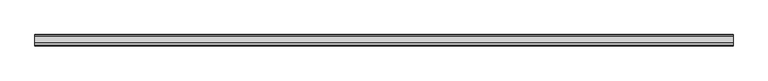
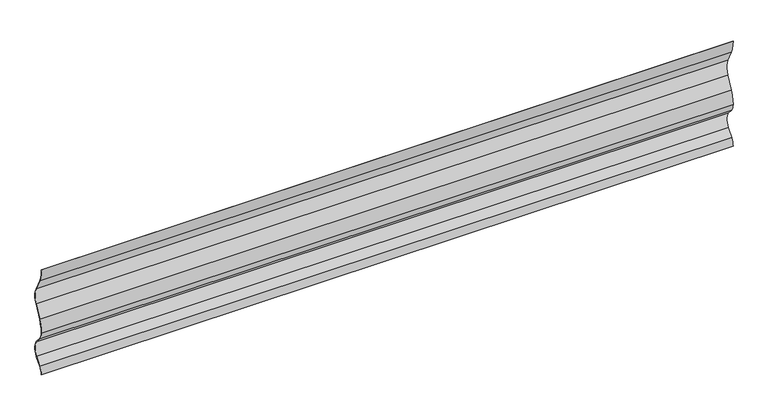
"""IFC4 building model written with IfcOpenShell, lengths in millimetres: plate geometry, Ritmica Horizontal 368 : Ritmica Horizontal 368."""

from ifc_helpers import new_model, si_unit, point, frame, frame_2d, origin, place, context, project, spatial, polyline, circle_curve, trimmed, segment, composite_curve, outline, extrude, source, transform, mapped, element, save


def plate_c734a921(model_context):
    return source(origin(), model_context, "Body", "SweptSolid", [
        extrude(outline(composite_curve([segment(polyline([(10.0476548, 324.2892209), (30.4443215, 283.7581494)]), True, "CONTINUOUS"), segment(trimmed(circle_curve(frame_2d((-23.1517705, 256.7867029)), 60.0), [point((30.4443215, 283.7581494))], [point((30.4639414, 229.8542794))], False, "CARTESIAN"), True, "CONTINUOUS"), segment(polyline([(30.4639414, 229.8542794), (10.0967851, 189.3083707)]), True, "CONTINUOUS"), segment(trimmed(circle_curve(frame_2d((94.180885, 148.8915653)), 93.293376), [point((10.0967851, 189.3083707))], [point((0.9471304, 145.5567461))], True, "CARTESIAN"), True, "CONTINUOUS"), segment(trimmed(circle_curve(frame_2d((38.0785482, 145.5702612)), 37.1314203), [point((0.9471304, 145.5567461))], [point((9.5589915, 121.7925982))], True, "CARTESIAN"), True, "CONTINUOUS"), segment(polyline([(9.5589915, 121.7925982), (28.2547827, 99.3683726)]), True, "CONTINUOUS"), segment(trimmed(circle_curve(frame_2d((-7.0897704, 72.9267773)), 44.1406321), [point((28.2547827, 99.3683726))], [point((28.2740218, 46.5109184))], False, "CARTESIAN"), True, "CONTINUOUS"), segment(polyline([(28.2740218, 46.5109184), (9.5945594, 23.7707747)]), True, "CONTINUOUS"), segment(trimmed(circle_curve(frame_2d((38.1314178, 0.0138791)), 37.1314203), [point((9.5945594, 23.7707747))], [point((1.0000001, 0.0))], True, "CARTESIAN"), True, "CONTINUOUS"), segment(polyline([(1.0000001, 0.0), (0.0, 0.0)]), True, "CONTINUOUS"), segment(trimmed(circle_curve(frame_2d((38.1314178, 0.0138791)), 38.1314203), [point((0.0, 0.0))], [point((8.8260227, 24.4105804))], False, "CARTESIAN"), True, "CONTINUOUS"), segment(polyline([(8.8260227, 24.4105804), (27.488531, 47.1303588)]), True, "CONTINUOUS"), segment(trimmed(circle_curve(frame_2d((-7.0897704, 72.9267773)), 43.1406321), [point((27.488531, 47.1303588))], [point((27.4697431, 98.7483605))], True, "CARTESIAN"), True, "CONTINUOUS"), segment(polyline([(27.4697431, 98.7483605), (8.7909208, 121.1522332)]), True, "CONTINUOUS"), segment(trimmed(circle_curve(frame_2d((38.0785482, 145.5702612)), 38.1314203), [point((8.7909208, 121.1522332))], [point((-0.0528589, 145.5386154))], False, "CARTESIAN"), True, "CONTINUOUS"), segment(trimmed(circle_curve(frame_2d((94.180885, 148.8915653)), 94.293376), [point((-0.0528589, 145.5386154))], [point((9.1992862, 189.7494732))], False, "CARTESIAN"), True, "CONTINUOUS"), segment(polyline([(9.1992862, 189.7494732), (29.5703462, 230.3031531)]), True, "CONTINUOUS"), segment(trimmed(circle_curve(frame_2d((-23.1517705, 256.7867029)), 59.0), [point((29.5703462, 230.3031531))], [point((29.5510533, 283.3086253))], True, "CARTESIAN"), True, "CONTINUOUS"), segment(polyline([(29.5510533, 283.3086253), (9.1504773, 323.8474651)]), True, "CONTINUOUS"), segment(trimmed(circle_curve(frame_2d((94.1023106, 364.7672254)), 94.293376), [point((9.1504773, 323.8474651))], [point((-0.1338492, 368.0515751))], False, "CARTESIAN"), True, "CONTINUOUS"), segment(polyline([(-0.1338492, 368.0515751), (0.8667645, 368.0515751)]), True, "CONTINUOUS"), segment(trimmed(circle_curve(frame_2d((94.1023106, 364.7672254)), 93.293376), [point((0.8667645, 368.0515751))], [point((10.0476548, 324.2892209))], True, "CARTESIAN"), True, "CONTINUOUS")], self_intersect=False)), frame((-1149.0935453, 0.0, 0.0), z_axis=(1.0, 0.0, 0.0), x_axis=(0.0, 1.0, 0.0)), (0.0, 0.0, 1.0), 2298.1870906),
    ])


if __name__ == "__main__":
    model = new_model("IFC4")
    model_context = context("Model", 3, world=origin())
    ifc_project = project(units=[si_unit("LENGTHUNIT", "METRE", prefix="MILLI")], contexts=[model_context])
    site = spatial("IfcSite", under=ifc_project)
    building = spatial("IfcBuilding", under=site)
    placement = place(None, origin())
    plate_shape = plate_c734a921(model_context)
    element("IfcPlate", 1, ObjectType="Ritmica Horizontal 368 : Ritmica Horizontal 368", at=placement, inside=building, context=model_context, shape_type="MappedRepresentation", body=[
        mapped(plate_shape, transform((0.0, 0.0, 0.0), x_axis=(1.0, 0.0, 0.0), y_axis=(0.0, 1.0, 0.0), z_axis=(0.0, 0.0, 1.0))),
    ])
    save(model, "model.ifc")
